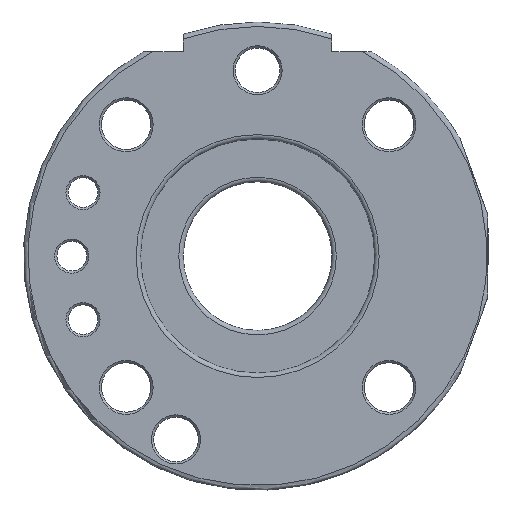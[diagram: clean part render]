
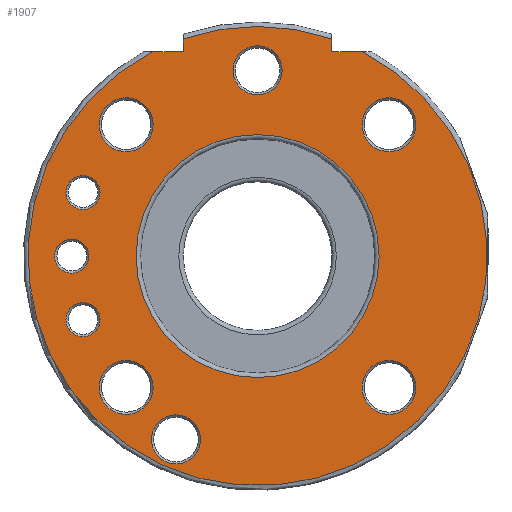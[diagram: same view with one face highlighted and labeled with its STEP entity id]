
A CAD part, front view. The second image highlights one B-rep face of the part: STEP entity #1907.
In plain terms, the highlighted planar face has unit normal (0, -1, 0).
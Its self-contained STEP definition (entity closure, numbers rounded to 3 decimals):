
#49=FACE_BOUND('',#453,.T.);
#50=FACE_BOUND('',#454,.T.);
#51=FACE_BOUND('',#455,.T.);
#52=FACE_BOUND('',#456,.T.);
#53=FACE_BOUND('',#457,.T.);
#54=FACE_BOUND('',#458,.T.);
#55=FACE_BOUND('',#459,.T.);
#56=FACE_BOUND('',#460,.T.);
#57=FACE_BOUND('',#461,.T.);
#58=FACE_BOUND('',#462,.T.);
#92=PLANE('',#2046);
#124=LINE('',#3056,#223);
#125=LINE('',#3058,#224);
#126=LINE('',#3062,#225);
#127=LINE('',#3063,#226);
#223=VECTOR('',#2327,10.);
#224=VECTOR('',#2328,10.);
#225=VECTOR('',#2331,10.);
#226=VECTOR('',#2332,10.);
#351=FACE_OUTER_BOUND('',#452,.T.);
#452=EDGE_LOOP('',(#1295,#1296,#1297,#1298,#1299,#1300));
#453=EDGE_LOOP('',(#1301));
#454=EDGE_LOOP('',(#1302));
#455=EDGE_LOOP('',(#1303));
#456=EDGE_LOOP('',(#1304));
#457=EDGE_LOOP('',(#1305));
#458=EDGE_LOOP('',(#1306));
#459=EDGE_LOOP('',(#1307));
#460=EDGE_LOOP('',(#1308));
#461=EDGE_LOOP('',(#1309));
#462=EDGE_LOOP('',(#1310,#1311));
#593=CIRCLE('',#2040,16.35);
#598=CIRCLE('',#2045,16.35);
#599=CIRCLE('',#2047,30.9);
#600=CIRCLE('',#2048,30.9);
#601=CIRCLE('',#2049,3.3);
#602=CIRCLE('',#2050,3.624);
#603=CIRCLE('',#2051,3.624);
#604=CIRCLE('',#2052,2.3);
#605=CIRCLE('',#2053,2.3);
#606=CIRCLE('',#2054,2.3);
#607=CIRCLE('',#2055,3.624);
#608=CIRCLE('',#2056,3.624);
#609=CIRCLE('',#2057,3.3);
#791=VERTEX_POINT('',#3040);
#792=VERTEX_POINT('',#3041);
#796=VERTEX_POINT('',#3052);
#797=VERTEX_POINT('',#3053);
#798=VERTEX_POINT('',#3055);
#799=VERTEX_POINT('',#3057);
#800=VERTEX_POINT('',#3059);
#801=VERTEX_POINT('',#3061);
#802=VERTEX_POINT('',#3064);
#803=VERTEX_POINT('',#3066);
#804=VERTEX_POINT('',#3068);
#805=VERTEX_POINT('',#3070);
#806=VERTEX_POINT('',#3072);
#807=VERTEX_POINT('',#3074);
#808=VERTEX_POINT('',#3076);
#809=VERTEX_POINT('',#3078);
#810=VERTEX_POINT('',#3080);
#992=EDGE_CURVE('',#791,#792,#593,.T.);
#997=EDGE_CURVE('',#792,#791,#598,.T.);
#998=EDGE_CURVE('',#796,#797,#599,.T.);
#999=EDGE_CURVE('',#796,#798,#124,.T.);
#1000=EDGE_CURVE('',#798,#799,#125,.T.);
#1001=EDGE_CURVE('',#800,#799,#600,.T.);
#1002=EDGE_CURVE('',#800,#801,#126,.T.);
#1003=EDGE_CURVE('',#801,#797,#127,.T.);
#1004=EDGE_CURVE('',#802,#802,#601,.T.);
#1005=EDGE_CURVE('',#803,#803,#602,.T.);
#1006=EDGE_CURVE('',#804,#804,#603,.T.);
#1007=EDGE_CURVE('',#805,#805,#604,.T.);
#1008=EDGE_CURVE('',#806,#806,#605,.T.);
#1009=EDGE_CURVE('',#807,#807,#606,.T.);
#1010=EDGE_CURVE('',#808,#808,#607,.T.);
#1011=EDGE_CURVE('',#809,#809,#608,.T.);
#1012=EDGE_CURVE('',#810,#810,#609,.T.);
#1295=ORIENTED_EDGE('',*,*,#998,.F.);
#1296=ORIENTED_EDGE('',*,*,#999,.T.);
#1297=ORIENTED_EDGE('',*,*,#1000,.T.);
#1298=ORIENTED_EDGE('',*,*,#1001,.F.);
#1299=ORIENTED_EDGE('',*,*,#1002,.T.);
#1300=ORIENTED_EDGE('',*,*,#1003,.T.);
#1301=ORIENTED_EDGE('',*,*,#1004,.F.);
#1302=ORIENTED_EDGE('',*,*,#1005,.F.);
#1303=ORIENTED_EDGE('',*,*,#1006,.F.);
#1304=ORIENTED_EDGE('',*,*,#1007,.F.);
#1305=ORIENTED_EDGE('',*,*,#1008,.F.);
#1306=ORIENTED_EDGE('',*,*,#1009,.F.);
#1307=ORIENTED_EDGE('',*,*,#1010,.F.);
#1308=ORIENTED_EDGE('',*,*,#1011,.F.);
#1309=ORIENTED_EDGE('',*,*,#1012,.F.);
#1310=ORIENTED_EDGE('',*,*,#992,.F.);
#1311=ORIENTED_EDGE('',*,*,#997,.F.);
#1907=ADVANCED_FACE('',(#351,#49,#50,#51,#52,#53,#54,#55,#56,#57,#58),#92,
 .T.);
#2040=AXIS2_PLACEMENT_3D('',#3042,#2311,#2312);
#2045=AXIS2_PLACEMENT_3D('',#3050,#2321,#2322);
#2046=AXIS2_PLACEMENT_3D('',#3051,#2323,#2324);
#2047=AXIS2_PLACEMENT_3D('',#3054,#2325,#2326);
#2048=AXIS2_PLACEMENT_3D('',#3060,#2329,#2330);
#2049=AXIS2_PLACEMENT_3D('',#3065,#2333,#2334);
#2050=AXIS2_PLACEMENT_3D('',#3067,#2335,#2336);
#2051=AXIS2_PLACEMENT_3D('',#3069,#2337,#2338);
#2052=AXIS2_PLACEMENT_3D('',#3071,#2339,#2340);
#2053=AXIS2_PLACEMENT_3D('',#3073,#2341,#2342);
#2054=AXIS2_PLACEMENT_3D('',#3075,#2343,#2344);
#2055=AXIS2_PLACEMENT_3D('',#3077,#2345,#2346);
#2056=AXIS2_PLACEMENT_3D('',#3079,#2347,#2348);
#2057=AXIS2_PLACEMENT_3D('',#3081,#2349,#2350);
#2311=DIRECTION('center_axis',(0.,-1.,0.));
#2312=DIRECTION('ref_axis',(1.,0.,0.));
#2321=DIRECTION('center_axis',(0.,-1.,0.));
#2322=DIRECTION('ref_axis',(1.,0.,0.));
#2323=DIRECTION('center_axis',(0.,-1.,0.));
#2324=DIRECTION('ref_axis',(0.,0.,-1.));
#2325=DIRECTION('center_axis',(0.,1.,0.));
#2326=DIRECTION('ref_axis',(0.,0.,1.));
#2327=DIRECTION('',(0.,0.,-1.));
#2328=DIRECTION('',(-1.,0.,0.));
#2329=DIRECTION('center_axis',(0.,1.,0.));
#2330=DIRECTION('ref_axis',(0.,0.,-1.));
#2331=DIRECTION('',(-1.,0.,0.));
#2332=DIRECTION('',(0.,0.,1.));
#2333=DIRECTION('center_axis',(0.,-1.,0.));
#2334=DIRECTION('ref_axis',(-1.,0.,0.));
#2335=DIRECTION('center_axis',(0.,-1.,0.));
#2336=DIRECTION('ref_axis',(1.,0.,0.));
#2337=DIRECTION('center_axis',(0.,-1.,0.));
#2338=DIRECTION('ref_axis',(1.,0.,0.));
#2339=DIRECTION('center_axis',(0.,-1.,0.));
#2340=DIRECTION('ref_axis',(1.,0.,0.));
#2341=DIRECTION('center_axis',(0.,-1.,0.));
#2342=DIRECTION('ref_axis',(1.,0.,0.));
#2343=DIRECTION('center_axis',(0.,-1.,0.));
#2344=DIRECTION('ref_axis',(1.,0.,0.));
#2345=DIRECTION('center_axis',(0.,-1.,0.));
#2346=DIRECTION('ref_axis',(1.,0.,0.));
#2347=DIRECTION('center_axis',(0.,-1.,0.));
#2348=DIRECTION('ref_axis',(1.,0.,0.));
#2349=DIRECTION('center_axis',(0.,-1.,0.));
#2350=DIRECTION('ref_axis',(1.,0.,0.));
#3040=CARTESIAN_POINT('',(-16.35,0.,0.));
#3041=CARTESIAN_POINT('',(0.,0.,-16.35));
#3042=CARTESIAN_POINT('Origin',(0.,0.,0.));
#3050=CARTESIAN_POINT('Origin',(0.,0.,0.));
#3051=CARTESIAN_POINT('Origin',(-23.625,0.,0.));
#3052=CARTESIAN_POINT('',(-10.,0.,29.237));
#3053=CARTESIAN_POINT('',(10.,0.,29.237));
#3054=CARTESIAN_POINT('Origin',(0.,0.,0.));
#3055=CARTESIAN_POINT('',(-10.,0.,27.5));
#3056=CARTESIAN_POINT('',(-10.,0.,15.75));
#3057=CARTESIAN_POINT('',(-14.091,0.,27.5));
#3058=CARTESIAN_POINT('',(-21.813,0.,27.5));
#3059=CARTESIAN_POINT('',(14.091,0.,27.5));
#3060=CARTESIAN_POINT('Origin',(0.,0.,0.));
#3061=CARTESIAN_POINT('',(10.,0.,27.5));
#3062=CARTESIAN_POINT('',(-1.813,0.,27.5));
#3063=CARTESIAN_POINT('',(10.,0.,15.75));
#3064=CARTESIAN_POINT('',(3.3,0.,25.));
#3065=CARTESIAN_POINT('Origin',(0.,0.,
25.));
#3066=CARTESIAN_POINT('',(-21.301,0.,-17.678));
#3067=CARTESIAN_POINT('Origin',(-17.678,0.,
-17.678));
#3068=CARTESIAN_POINT('',(14.054,0.,17.678));
#3069=CARTESIAN_POINT('Origin',(17.678,0.,
17.678));
#3070=CARTESIAN_POINT('',(-25.792,0.,8.551));
#3071=CARTESIAN_POINT('Origin',(-23.492,0.,
8.551));
#3072=CARTESIAN_POINT('',(-25.792,0.,-8.551));
#3073=CARTESIAN_POINT('Origin',(-23.492,0.,
-8.551));
#3074=CARTESIAN_POINT('',(-27.3,0.,0.));
#3075=CARTESIAN_POINT('Origin',(-25.,0.,0.));
#3076=CARTESIAN_POINT('',(-21.301,0.,17.678));
#3077=CARTESIAN_POINT('Origin',(-17.678,0.,
17.678));
#3078=CARTESIAN_POINT('',(14.054,0.,-17.678));
#3079=CARTESIAN_POINT('Origin',(17.678,0.,
-17.678));
#3080=CARTESIAN_POINT('',(-14.282,0.,-24.666));
#3081=CARTESIAN_POINT('Origin',(-10.982,0.,
-24.666));
